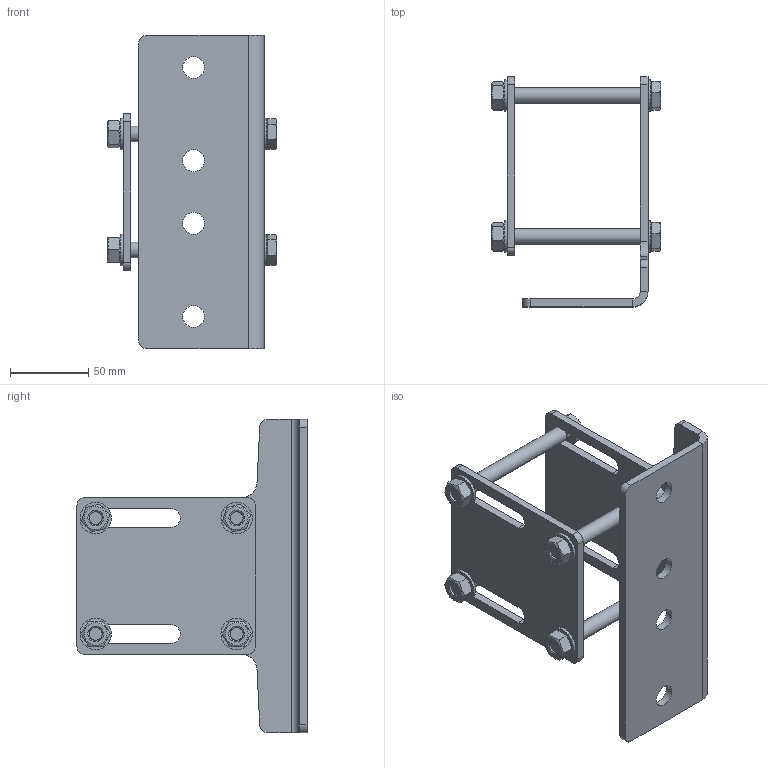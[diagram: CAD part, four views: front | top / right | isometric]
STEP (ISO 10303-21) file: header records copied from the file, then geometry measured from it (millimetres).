
FILE_DESCRIPTION(/* description */ (''),/* implementation_level */ '2;1');
FILE_NAME(/* name */ 'D:\VDV Techniek\Documents\Inventor\_ISP_Products\UDG on SquareTube\UDG SquareTube Clamped\STP\Square tube 80mm-in-Mounting bracket.stp',/* time_stamp */ '2022-12-29T15:45:15+01:00',/* author */ ('jos'),/* organization */ (''),/* preprocessor_version */ 'ST-DEVELOPER v15.2',/* originating_system */ 'Autodesk Inventor 2014',/* authorisation */ '');
FILE_SCHEMA (('AUTOMOTIVE_DESIGN { 1 0 10303 214 3 1 1 }'));
Length unit declared in the file: millimetre
Products named in the file (6): UDG_Mounting_Bracket_universal_HDG; UDG_Counter_Plate_universal_HDG; DIN 933 - M10  x 100; DIN 126 - 11; ISO 4032 - M10DIN EN; Square tube 80mm-in-Mounting bracket
Assembly tree (18 placements, depth 2):
  Square tube 80mm-in-Mounting bracket
    UDG_Mounting_Bracket_universal_HDG
    UDG_Counter_Plate_universal_HDG
    DIN 933 - M10  x 100  x4
    DIN 126 - 11  x8
    ISO 4032 - M10DIN EN  x4
Bounding box: 108.2 x 147 x 200 mm (x, y, z)
Volume: 244482.4 mm3; surface area: 114519.3 mm2
Topology: 18 solids, 18 shells, 228 faces, 504 edges, 320 vertices
Faces by surface type: plane 118, cylinder 62, cone 48
Full cylindrical faces by diameter (mm): 8.376 x4, 9.188 x4, 10 x4, 11 x8, 12 x4, 14 x4, 15.4 x4, 20 x8
Entity records: 3034 total; most frequent: CARTESIAN_POINT 538, DIRECTION 520, ORIENTED_EDGE 434, EDGE_CURVE 217, AXIS2_PLACEMENT_3D 205, VERTEX_POINT 151, EDGE_LOOP 148, LINE 110
